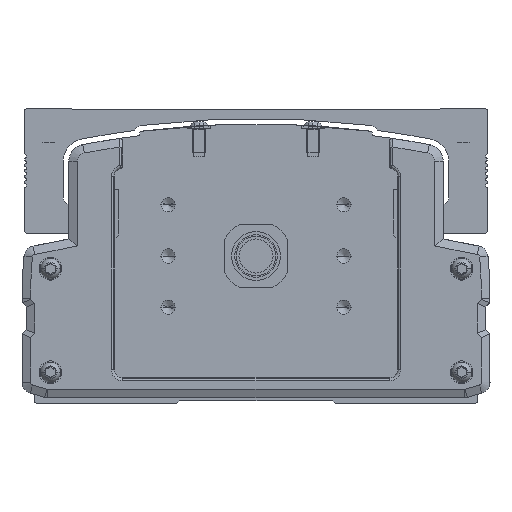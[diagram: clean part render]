
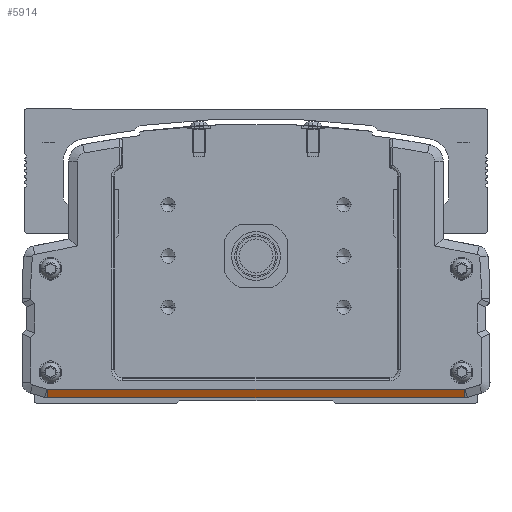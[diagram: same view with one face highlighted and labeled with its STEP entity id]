
A CAD part, front view. The second image highlights one B-rep face of the part: STEP entity #5914.
In plain terms, the highlighted planar face has unit normal (0, -0.894, -0.447).
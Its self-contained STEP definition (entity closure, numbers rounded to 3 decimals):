
#5914=ADVANCED_FACE('',(#12345),#12346,.F.);
#12345=FACE_OUTER_BOUND('',#21117,.T.);
#12346=PLANE('',#21118);
#21117=EDGE_LOOP('',(#39348,#39349,#39350,#39351));
#21118=AXIS2_PLACEMENT_3D('',#39352,#39353,#39354);
#39348=ORIENTED_EDGE('',*,*,#46772,.T.);
#39349=ORIENTED_EDGE('',*,*,#49744,.F.);
#39350=ORIENTED_EDGE('',*,*,#43057,.F.);
#39351=ORIENTED_EDGE('',*,*,#48341,.F.);
#39352=CARTESIAN_POINT('',(-599.999,-486.278,-50.001));
#39353=DIRECTION('',(0.,0.894,0.447));
#39354=DIRECTION('',(0.,0.447,-0.894));
#43057=EDGE_CURVE('',#51348,#51349,#51350,.T.);
#46772=EDGE_CURVE('',#57435,#57433,#57436,.T.);
#48341=EDGE_CURVE('',#57435,#51348,#59612,.T.);
#49744=EDGE_CURVE('',#51349,#57433,#61333,.T.);
#51348=VERTEX_POINT('',#63361);
#51349=VERTEX_POINT('',#63362);
#51350=LINE('',#63363,#63364);
#57433=VERTEX_POINT('',#73201);
#57435=VERTEX_POINT('',#73203);
#57436=LINE('',#73204,#73205);
#59612=LINE('',#76501,#76502);
#61333=LINE('',#79071,#79072);
#63361=CARTESIAN_POINT('',(-526.575,-487.778,-47.001));
#63362=CARTESIAN_POINT('',(-526.575,-486.278,-50.001));
#63363=CARTESIAN_POINT('',(-526.575,-487.778,-47.001));
#63364=VECTOR('',#80705,1000.0);
#73201=CARTESIAN_POINT('',(-673.423,-486.278,-50.001));
#73203=CARTESIAN_POINT('',(-673.423,-487.778,-47.001));
#73204=CARTESIAN_POINT('',(-673.423,-487.778,-47.001));
#73205=VECTOR('',#85435,1000.0);
#76501=CARTESIAN_POINT('',(-600.015,-487.778,-47.001));
#76502=VECTOR('',#87193,1000.0);
#79071=CARTESIAN_POINT('',(-599.999,-486.278,-50.001));
#79072=VECTOR('',#88612,1000.0);
#80705=DIRECTION('',(0.,0.447,-0.894));
#85435=DIRECTION('',(0.,0.447,-0.894));
#87193=DIRECTION('',(1.0,0.,0.));
#88612=DIRECTION('',(-1.0,0.,0.));
